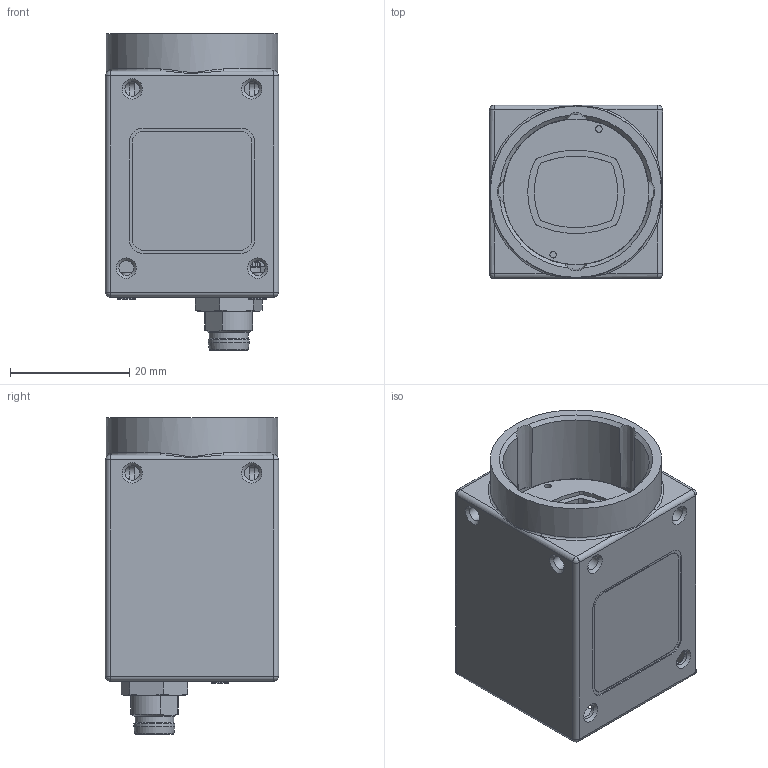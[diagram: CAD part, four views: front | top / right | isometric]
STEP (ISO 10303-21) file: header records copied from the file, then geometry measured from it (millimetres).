
FILE_DESCRIPTION( ( 'Unknown' ), '1' );
FILE_NAME( 'C:/Users/rih/Desktop/11151564_VCXU-50M.stp', '14.10.2014', ( 'Unknown' ), ( 'Unknown' ), 'PSStep 15.0.49', 'Unknown', ' ' );
FILE_SCHEMA( ( 'AUTOMOTIVE_DESIGN { 1 0 10303 214 1 1 1 1 }' ) );
Length unit declared in the file: millimetre
Products named in the file (6): 11104603
Bounding box: 29 x 29 x 53 mm (x, y, z)
Volume: 10393.2 mm3; surface area: 15974.7 mm2
Topology: 6 solids, 10 shells, 1751 faces, 4418 edges, 2937 vertices
Faces by surface type: plane 1016, cylinder 581, cone 71, torus 27, sphere 24, bspline 24, extrusion 8
Full cylindrical faces by diameter (mm): 0.217 x1, 0.6 x242, 0.7 x1, 0.9 x1, 1.1 x2, 1.4 x4, 1.567 x2, 1.6 x2, 1.9 x4, 2.459 x10, 3 x4, 6.5 x1, 6.9 x1, 8.4 x1, 9 x1, 9.4 x1, 24.4 x1, 26 x1, 28.7 x1
Entity records: 69199 total; most frequent: CARTESIAN_POINT 12713, DIRECTION 8150, ORIENTED_EDGE 7496, EDGE_CURVE 3748, AXIS2_PLACEMENT_3D 3029, VERTEX_POINT 2639, EDGE_LOOP 2459, PRESENTATION_STYLE_ASSIGNMENT 2420
